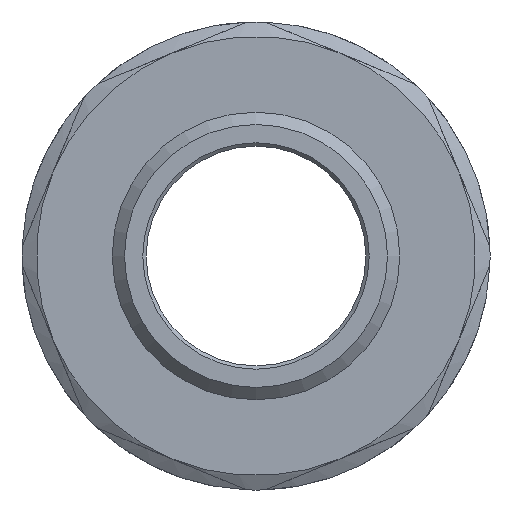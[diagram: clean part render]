
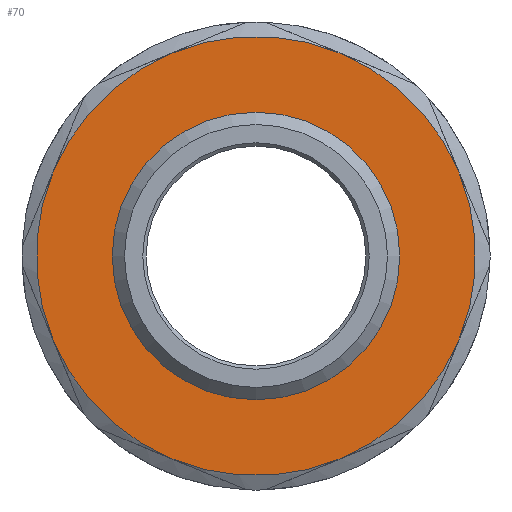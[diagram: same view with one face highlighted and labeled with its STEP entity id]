
A CAD part, front view. The second image highlights one B-rep face of the part: STEP entity #70.
In plain terms, the highlighted planar face has unit normal (0, -1, 0).
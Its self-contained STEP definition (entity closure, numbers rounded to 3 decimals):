
#70=ADVANCED_FACE('',(#272,#274),#276,.F.);
#272=FACE_BOUND('',#273,.T.);
#273=EDGE_LOOP('',(#444,#445,#446));
#274=FACE_BOUND('',#275,.T.);
#275=EDGE_LOOP('',(#447));
#276=PLANE('',#277);
#277=AXIS2_PLACEMENT_3D('',#278,#279,#280);
#278=CARTESIAN_POINT('',(0.,-25.5,0.));
#279=DIRECTION('',(0.,1.,0.));
#280=DIRECTION('',(-1.,0.,0.));
#444=ORIENTED_EDGE('',*,*,#514,.T.);
#445=ORIENTED_EDGE('',*,*,#509,.T.);
#446=ORIENTED_EDGE('',*,*,#519,.T.);
#447=ORIENTED_EDGE('',*,*,#500,.F.);
#500=EDGE_CURVE('',#608,#608,#609,.T.);
#509=EDGE_CURVE('',#612,#619,#621,.F.);
#514=EDGE_CURVE('',#626,#612,#627,.F.);
#519=EDGE_CURVE('',#619,#626,#632,.F.);
#608=VERTEX_POINT('',#831);
#609=CIRCLE('',#832,20.955);
#612=VERTEX_POINT('',#841);
#619=VERTEX_POINT('',#1040);
#621=CIRCLE('',#1063,32.);
#626=VERTEX_POINT('',#1206);
#627=CIRCLE('',#1207,32.);
#632=CIRCLE('',#1308,32.);
#831=CARTESIAN_POINT('',(20.955,-25.5,0.));
#832=AXIS2_PLACEMENT_3D('',#833,#834,#835);
#833=CARTESIAN_POINT('',(0.,-25.5,0.));
#834=DIRECTION('',(0.,-1.,0.));
#835=DIRECTION('',(1.,0.,0.));
#841=CARTESIAN_POINT('',(29.564,-25.5,12.246));
#1040=CARTESIAN_POINT('',(12.246,-25.5,-29.564));
#1063=AXIS2_PLACEMENT_3D('',#1064,#1065,#1066);
#1064=CARTESIAN_POINT('',(0.,-25.5,0.));
#1065=DIRECTION('',(0.,1.,0.));
#1066=DIRECTION('',(0.383,0.,-0.924));
#1206=CARTESIAN_POINT('',(29.564,-25.5,-12.246));
#1207=AXIS2_PLACEMENT_3D('',#1208,#1209,#1210);
#1208=CARTESIAN_POINT('',(0.,-25.5,0.));
#1209=DIRECTION('',(0.,1.,0.));
#1210=DIRECTION('',(0.924,0.,0.383));
#1308=AXIS2_PLACEMENT_3D('',#1309,#1310,#1311);
#1309=CARTESIAN_POINT('',(0.,-25.5,0.));
#1310=DIRECTION('',(0.,1.,0.));
#1311=DIRECTION('',(0.924,0.,-0.383));
